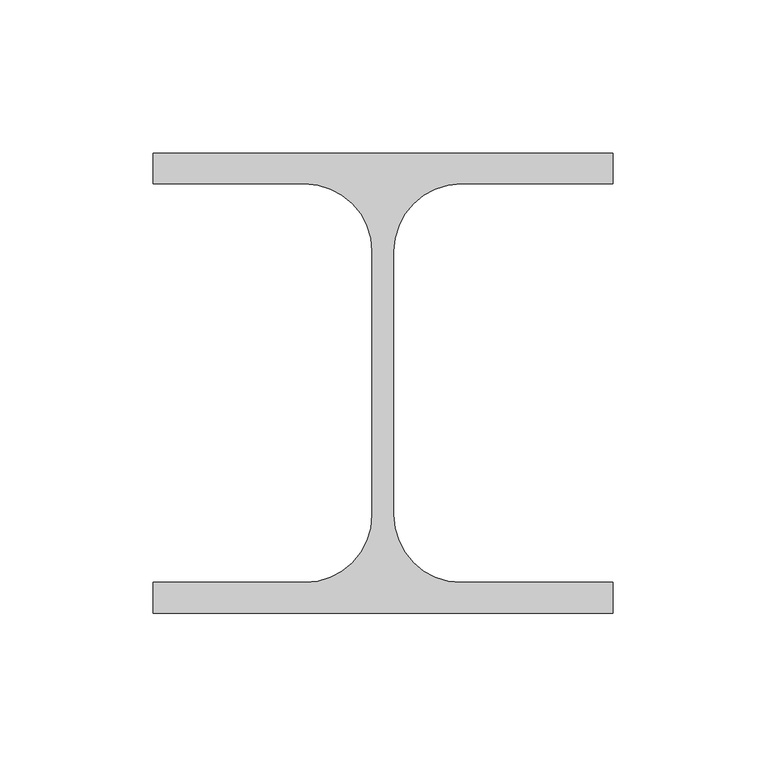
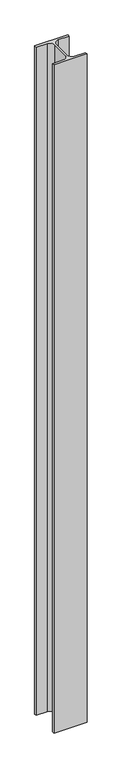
"""IFC4 building model written with IfcOpenShell, lengths in millimetres: column geometry, S柱 H型x : 階名+部材名."""

from ifc_helpers import new_model, si_unit, point, frame, frame_2d, origin, place, context, project, spatial, polyline, circle_curve, trimmed, segment, composite_curve, outline, extrude, source, transform, mapped, element, save


def column_2520c348(model_context):
    return source(origin(), model_context, "Body", "SweptSolid", [
        extrude(outline(composite_curve([segment(polyline([(75.0, 75.0), (75.0, 65.0), (25.5, 65.0)]), True, "CONTINUOUS"), segment(trimmed(circle_curve(frame_2d((25.5, 43.0)), 22.0), [point((25.5, 65.0))], [point((3.5, 43.0))], True, "CARTESIAN"), True, "CONTINUOUS"), segment(polyline([(3.5, 43.0), (3.5, -43.0)]), True, "CONTINUOUS"), segment(trimmed(circle_curve(frame_2d((25.5, -43.0)), 22.0), [point((3.5, -43.0))], [point((25.5, -65.0))], True, "CARTESIAN"), True, "CONTINUOUS"), segment(polyline([(25.5, -65.0), (75.0, -65.0), (75.0, -75.0), (-75.0, -75.0), (-75.0, -65.0), (-25.5, -65.0)]), True, "CONTINUOUS"), segment(trimmed(circle_curve(frame_2d((-25.5, -43.0)), 22.0), [point((-25.5, -65.0))], [point((-3.5, -43.0))], True, "CARTESIAN"), True, "CONTINUOUS"), segment(polyline([(-3.5, -43.0), (-3.5, 43.0)]), True, "CONTINUOUS"), segment(trimmed(circle_curve(frame_2d((-25.5, 43.0)), 22.0), [point((-3.5, 43.0))], [point((-25.5, 65.0))], True, "CARTESIAN"), True, "CONTINUOUS"), segment(polyline([(-25.5, 65.0), (-75.0, 65.0), (-75.0, 75.0), (75.0, 75.0)]), True, "CONTINUOUS")], self_intersect=False)), frame((0.0, 0.0, 9950.0), z_axis=(0.0, 0.0, 1.0), x_axis=(1.0, 0.0, 0.0)), (0.0, 0.0, 1.0), 3200.0),
    ])


if __name__ == "__main__":
    model = new_model("IFC4")
    model_context = context("Model", 3, world=origin())
    ifc_project = project(units=[si_unit("LENGTHUNIT", "METRE", prefix="MILLI")], contexts=[model_context])
    site = spatial("IfcSite", under=ifc_project)
    building = spatial("IfcBuilding", under=site)
    placement = place(None, origin())
    column_shape = column_2520c348(model_context)
    element("IfcColumn", 1, ObjectType="S柱 H型x : 階名+部材名", at=placement, inside=building, context=model_context, shape_type="MappedRepresentation", body=[
        mapped(column_shape, transform((0.0, 0.0, 0.0), x_axis=(1.0, 0.0, 0.0), y_axis=(0.0, 1.0, 0.0), z_axis=(0.0, 0.0, 1.0))),
    ])
    save(model, "model.ifc")
